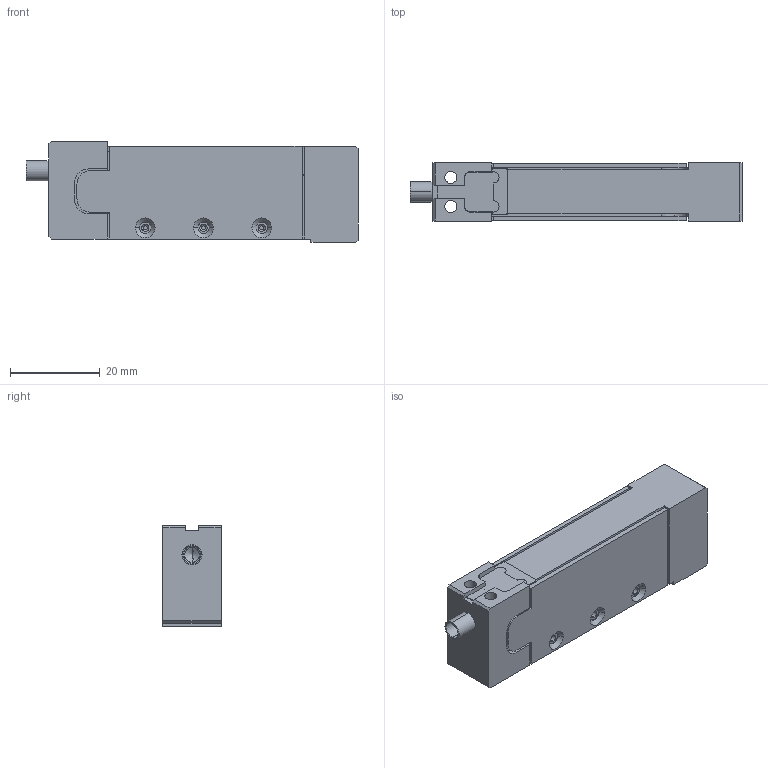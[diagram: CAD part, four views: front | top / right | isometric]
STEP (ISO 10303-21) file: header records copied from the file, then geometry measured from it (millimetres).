
FILE_DESCRIPTION (( 'STEP AP203' ), '1' );
FILE_NAME ('PPS-D00500.STEP', '2019-12-09T12:50:42', ( '' ), ( '' ), 'SwSTEP 2.0', 'SolidWorks 2019', '' );
FILE_SCHEMA (( 'CONFIG_CONTROL_DESIGN' ));
Length unit declared in the file: millimetre
Products named in the file (15): countersunk flat head cross recess screw_din; PPO000022_Abdeckung 500 痠 - 1; PPS-D00500; PPO000016_Kabelhülse; PPO000020_Grundkörper 500 µm_Erodierteil; countersunk flat head cross recess screw_din_ISO 7046-1 - M2 x 5 - Z --- 5N; PPO000017_DMS Abdeckblech; PPO000021_Abdeckung 500 痠; PPO000020_Grundkörper 500 µm
Assembly tree (8 placements, depth 2):
  countersunk flat head cross recess screw_din
  PPS-D00500
    PPO000020_Grundkörper 500 µm_Erodierteil
    PPO000021_Abdeckung 500 痠
    PPO000022_Abdeckung 500 痠 - 1
    countersunk flat head cross recess screw_din_ISO 7046-1 - M2 x 5 - Z --- 5N  x3
    PPO000016_Kabelhülse
    PPO000017_DMS Abdeckblech
  PPO000022_Abdeckung 500 痠 - 1
  PPO000017_DMS Abdeckblech
  countersunk flat head cross recess screw_din
Bounding box: 74.14 x 13 x 22.5 mm (x, y, z)
Volume: 17414 mm3; surface area: 10892.2 mm2
Topology: 8 solids, 8 shells, 329 faces, 820 edges, 500 vertices
Faces by surface type: plane 159, cylinder 85, cone 79, torus 6
Entity records: 8875 total; most frequent: CARTESIAN_POINT 1372, DIRECTION 1331, ORIENTED_EDGE 1244, EDGE_CURVE 622, AXIS2_PLACEMENT_3D 465, VECTOR 401, LINE 401, VERTEX_POINT 392
